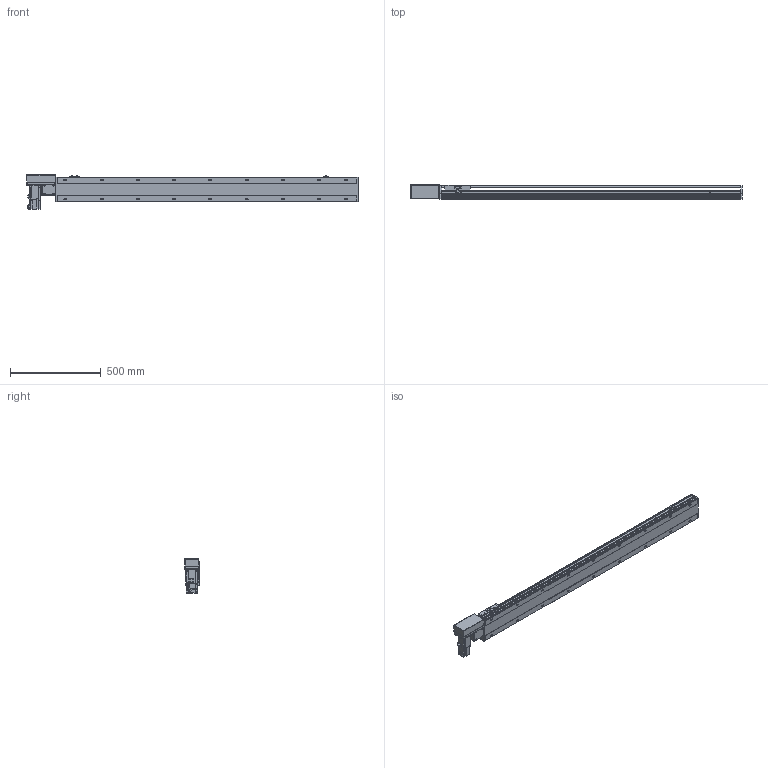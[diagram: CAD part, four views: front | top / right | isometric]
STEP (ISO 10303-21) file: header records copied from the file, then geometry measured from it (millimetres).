
FILE_DESCRIPTION( ( 'STEP AP214' ), '1' );
FILE_NAME( 'x:/temp/worker_27/temp/exporttempdir_6708_374_uzWng/format_0/PBS140-P40-S1400-R-T40-C1-N(0).stp', '2022-06-06T01:28:33', ( 'License CC BY-ND 4.0' ), ( 'CADENAS' ), ' ', 'PARTsolutions', ' ' );
FILE_SCHEMA( ( 'AUTOMOTIVE_DESIGN { 1 0 10303 214 1 1 1 1 }' ) );
Length unit declared in the file: millimetre
Products named in the file (7): PBS140-P40-S1400-R-T40-C1-N(0); _PBS140-S1400()_body; _PBS140T-R_motors; _T40-p1; _PBS140_sliser; _PBS140_plant; _PBS140_sensor
Assembly tree (8 placements, depth 2):
  PBS140-P40-S1400-R-T40-C1-N(0)
    _PBS140-S1400()_body
    _PBS140T-R_motors
    _T40-p1
    _PBS140_sliser
    _PBS140_plant
    _PBS140_sensor  x3
Bounding box: 1833 x 80.5 x 189.7 mm (x, y, z)
Volume: 8190047.4 mm3; surface area: 1416940 mm2
Topology: 8 solids, 8 shells, 1091 faces, 2876 edges, 1879 vertices
Faces by surface type: plane 698, cylinder 339, cone 44, sphere 8, torus 2
Full cylindrical faces by diameter (mm): 3.242 x4, 4 x2, 4.134 x4, 4.4 x8, 4.5 x2, 4.8 x4, 4.917 x26, 5.5 x7, 6 x2, 7 x20, 7.5 x8, 8 x12, 8.5 x4, 10.5 x18, 14 x1, 30 x2, 50 x2
Entity records: 39931 total; most frequent: CARTESIAN_POINT 6419, DIRECTION 5267, ORIENTED_EDGE 4972, EDGE_CURVE 2486, AXIS2_PLACEMENT_3D 1837, VERTEX_POINT 1725, LINE 1593, VECTOR 1593
